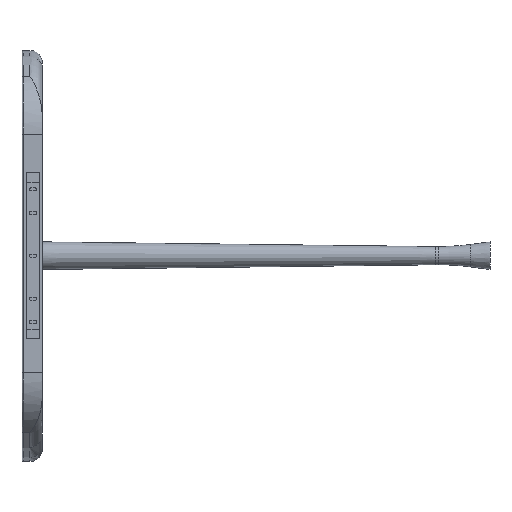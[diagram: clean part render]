
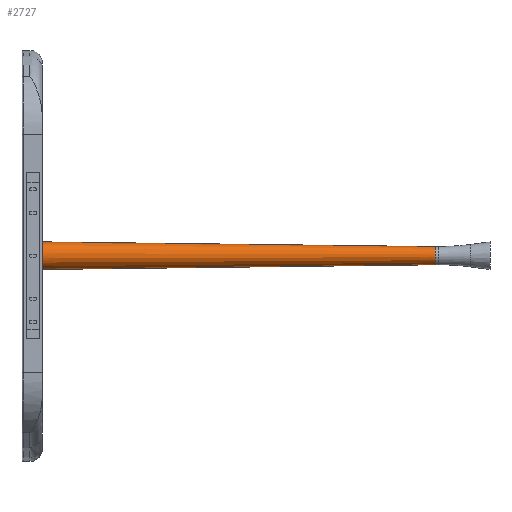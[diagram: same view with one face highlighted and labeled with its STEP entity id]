
A CAD part, left-side view. The second image highlights one B-rep face of the part: STEP entity #2727.
In plain terms, the highlighted conical face has half-angle 0.684 degrees and reference radius 14.846 mm.
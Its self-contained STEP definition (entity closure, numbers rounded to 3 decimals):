
#78 = DIRECTION ( 'NONE',  ( 0., 1., 0. ) ) ;
#259 = LINE ( 'NONE', #1108, #1722 ) ;
#346 = ORIENTED_EDGE ( 'NONE', *, *, #1762, .T. ) ;
#487 = EDGE_LOOP ( 'NONE', ( #2046, #2397, #346, #3921 ) ) ;
#697 = DIRECTION ( 'NONE',  ( 0., 1., 0.012 ) ) ;
#849 = CIRCLE ( 'NONE', #1707, 14.846 ) ;
#1108 = CARTESIAN_POINT ( 'NONE',  ( 0., 88.947, 14.846 ) ) ;
#1129 = CARTESIAN_POINT ( 'NONE',  ( 0., 88.947, -14.846 ) ) ;
#1208 = AXIS2_PLACEMENT_3D ( 'NONE', #2636, #78, #4045 ) ;
#1345 = VERTEX_POINT ( 'NONE', #4112 ) ;
#1493 = DIRECTION ( 'NONE',  ( 0., -1., 0. ) ) ;
#1707 = AXIS2_PLACEMENT_3D ( 'NONE', #1944, #4359, #2396 ) ;
#1722 = VECTOR ( 'NONE', #697, 1000. ) ;
#1762 = EDGE_CURVE ( 'NONE', #3912, #1345, #259, .T. ) ;
#1944 = CARTESIAN_POINT ( 'NONE',  ( 0., 88.947, 0. ) ) ;
#2046 = ORIENTED_EDGE ( 'NONE', *, *, #2171, .F. ) ;
#2055 = AXIS2_PLACEMENT_3D ( 'NONE', #3294, #1493, #4522 ) ;
#2171 = EDGE_CURVE ( 'NONE', #4247, #3338, #4319, .T. ) ;
#2223 = CARTESIAN_POINT ( 'NONE',  ( 0., 88.947, -14.846 ) ) ;
#2396 = DIRECTION ( 'NONE',  ( 0., 0., -1. ) ) ;
#2397 = ORIENTED_EDGE ( 'NONE', *, *, #2655, .F. ) ;
#2636 = CARTESIAN_POINT ( 'NONE',  ( 0., 88.947, 0. ) ) ;
#2655 = EDGE_CURVE ( 'NONE', #3912, #4247, #849, .T. ) ;
#2727 = ADVANCED_FACE ( 'NONE', ( #4751 ), #2930, .T. ) ;
#2930 = CONICAL_SURFACE ( 'NONE', #1208, 14.846, 0.012 ) ;
#3035 = EDGE_CURVE ( 'NONE', #1345, #3338, #4497, .T. ) ;
#3294 = CARTESIAN_POINT ( 'NONE',  ( 0., 730., 0. ) ) ;
#3338 = VERTEX_POINT ( 'NONE', #4236 ) ;
#3502 = CARTESIAN_POINT ( 'NONE',  ( 0., 88.947, 14.846 ) ) ;
#3683 = VECTOR ( 'NONE', #4244, 1000. ) ;
#3912 = VERTEX_POINT ( 'NONE', #3502 ) ;
#3921 = ORIENTED_EDGE ( 'NONE', *, *, #3035, .T. ) ;
#4045 = DIRECTION ( 'NONE',  ( 0., 0., 1. ) ) ;
#4112 = CARTESIAN_POINT ( 'NONE',  ( 0., 730., 22.5 ) ) ;
#4236 = CARTESIAN_POINT ( 'NONE',  ( 0., 730., -22.5 ) ) ;
#4244 = DIRECTION ( 'NONE',  ( 0., 1., -0.012 ) ) ;
#4247 = VERTEX_POINT ( 'NONE', #1129 ) ;
#4319 = LINE ( 'NONE', #2223, #3683 ) ;
#4359 = DIRECTION ( 'NONE',  ( 0., -1., 0. ) ) ;
#4497 = CIRCLE ( 'NONE', #2055, 22.5 ) ;
#4522 = DIRECTION ( 'NONE',  ( 0., 0., -1. ) ) ;
#4751 = FACE_OUTER_BOUND ( 'NONE', #487, .T. ) ;
